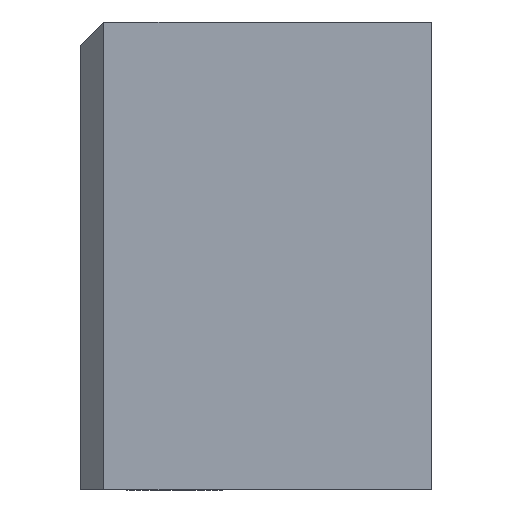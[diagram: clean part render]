
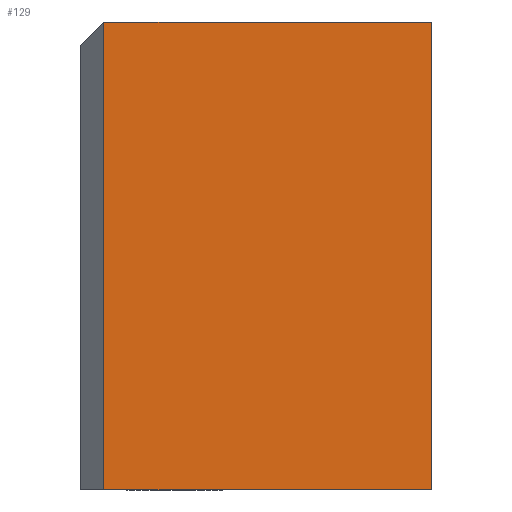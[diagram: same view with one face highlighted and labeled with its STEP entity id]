
A CAD part, left-side view. The second image highlights one B-rep face of the part: STEP entity #129.
In plain terms, the highlighted planar face has unit normal (-1, 0, 0).
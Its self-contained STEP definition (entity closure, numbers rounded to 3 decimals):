
#22 = DIRECTION ( 'NONE',  ( 0., -1., 0. ) ) ;
#29 = ORIENTED_EDGE ( 'NONE', *, *, #918, .F. ) ;
#82 = CARTESIAN_POINT ( 'NONE',  ( -570.95, -166.5, 10. ) ) ;
#98 = CARTESIAN_POINT ( 'NONE',  ( -570.95, -166.5, 10. ) ) ;
#122 = LINE ( 'NONE', #616, #931 ) ;
#126 = DIRECTION ( 'NONE',  ( 0., -1., 0. ) ) ;
#129 = ADVANCED_FACE ( 'NONE', ( #597 ), #828, .F. ) ;
#164 = EDGE_LOOP ( 'NONE', ( #29, #484, #781, #283 ) ) ;
#182 = VECTOR ( 'NONE', #126, 1000. ) ;
#211 = EDGE_CURVE ( 'NONE', #650, #986, #619, .T. ) ;
#283 = ORIENTED_EDGE ( 'NONE', *, *, #692, .F. ) ;
#292 = CARTESIAN_POINT ( 'NONE',  ( -570.95, -166.5, 0. ) ) ;
#314 = DIRECTION ( 'NONE',  ( 0., 0., -1. ) ) ;
#319 = CARTESIAN_POINT ( 'NONE',  ( -570.95, -166.5, 10. ) ) ;
#371 = LINE ( 'NONE', #319, #654 ) ;
#451 = DIRECTION ( 'NONE',  ( 0., 0., -1. ) ) ;
#484 = ORIENTED_EDGE ( 'NONE', *, *, #550, .T. ) ;
#535 = CARTESIAN_POINT ( 'NONE',  ( -570.95, -159.5, 0. ) ) ;
#542 = CARTESIAN_POINT ( 'NONE',  ( -570.95, -159.5, 10. ) ) ;
#550 = EDGE_CURVE ( 'NONE', #855, #650, #122, .T. ) ;
#556 = AXIS2_PLACEMENT_3D ( 'NONE', #852, #858, #451 ) ;
#597 = FACE_OUTER_BOUND ( 'NONE', #164, .T. ) ;
#613 = DIRECTION ( 'NONE',  ( 0., 0., -1. ) ) ;
#616 = CARTESIAN_POINT ( 'NONE',  ( -570.95, -159.5, 10. ) ) ;
#619 = LINE ( 'NONE', #292, #182 ) ;
#623 = CARTESIAN_POINT ( 'NONE',  ( -570.95, -166.5, 0. ) ) ;
#633 = VECTOR ( 'NONE', #22, 1000. ) ;
#650 = VERTEX_POINT ( 'NONE', #535 ) ;
#653 = VERTEX_POINT ( 'NONE', #98 ) ;
#654 = VECTOR ( 'NONE', #314, 1000. ) ;
#688 = LINE ( 'NONE', #82, #633 ) ;
#692 = EDGE_CURVE ( 'NONE', #653, #986, #371, .T. ) ;
#781 = ORIENTED_EDGE ( 'NONE', *, *, #211, .T. ) ;
#828 = PLANE ( 'NONE',  #556 ) ;
#852 = CARTESIAN_POINT ( 'NONE',  ( -570.95, -166.5, 10. ) ) ;
#855 = VERTEX_POINT ( 'NONE', #542 ) ;
#858 = DIRECTION ( 'NONE',  ( 1., 0., 0. ) ) ;
#918 = EDGE_CURVE ( 'NONE', #855, #653, #688, .T. ) ;
#931 = VECTOR ( 'NONE', #613, 1000. ) ;
#986 = VERTEX_POINT ( 'NONE', #623 ) ;
